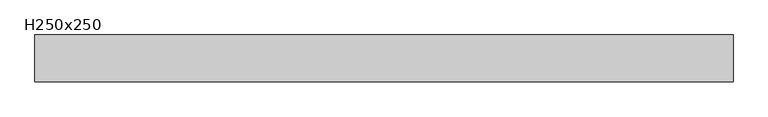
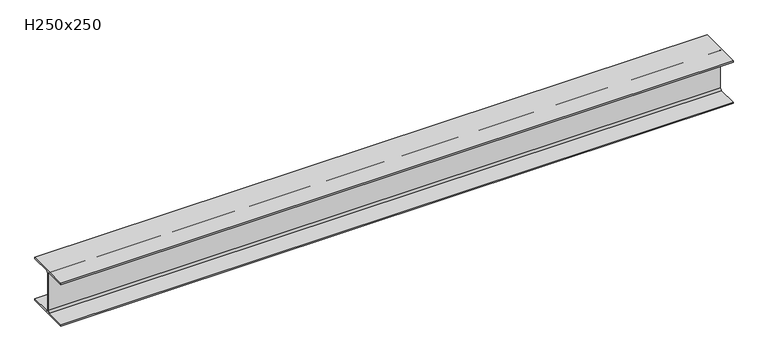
"""IFC4 building model written with IfcOpenShell, lengths in millimetres: beam geometry, H型鋼樑 : H250x250."""

import ifcopenshell
import ifcopenshell.guid

model = None  # the IFC model being written
_history = None  # IfcOwnerHistory: only IFC2X3 demands one
_inside = {}  # id of a spatial element -> (the spatial element, [elements in it])
_under = {}  # id of a project, library or spatial element -> (it, [spatial elements below it])
_declared = {}  # id of a project -> (the project, [libraries it declares])
_typed = {}  # id of a type object -> (the type object, [elements of that type])
_made_of = {}  # id of a material, layer set ... -> (it, [elements and type objects made of it])


def new_model(schema):
    """Start an empty IFC model of exactly this schema.

    Asked for "IFC4X3", IfcOpenShell would pick the latest addendum, in which some entities
    have other attributes; the version numbers below select the first issue.
    IFC2X3 requires an IfcOwnerHistory on every rooted entity: one is made here for all.
    """
    global model, _history
    if schema == "IFC4X3":
        model = ifcopenshell.file(schema_version=(4, 3, 0, 0))
    else:
        model = ifcopenshell.file(schema=schema)
    _inside.clear()
    _under.clear()
    _declared.clear()
    _typed.clear()
    _made_of.clear()
    _history = None
    if model.schema == "IFC2X3":
        org = make("IfcOrganization", Name="unknown")
        user = make(
            "IfcPersonAndOrganization",
            ThePerson=make("IfcPerson", FamilyName="unknown"),
            TheOrganization=org,
        )
        app = make(
            "IfcApplication",
            ApplicationDeveloper=org,
            Version="unknown",
            ApplicationFullName="unknown",
            ApplicationIdentifier="unknown",
        )
        _history = make(
            "IfcOwnerHistory",
            OwningUser=user,
            OwningApplication=app,
            ChangeAction="ADDED",
            CreationDate=0,
        )
    return model


def make(cls, **values):
    """One entity of the class cls with the attributes given. An attribute that is None is left unset."""
    return model.create_entity(
        cls, **{name: value for name, value in values.items() if value is not None}
    )


def rooted(cls, **values):
    """An entity with a GlobalId (a new one), such as an element, a storey or a relation."""
    return make(cls, GlobalId=ifcopenshell.guid.new(), OwnerHistory=_history, **values)


def si_unit(unit_type, name, prefix=None):
    """IfcSIUnit, for example si_unit("LENGTHUNIT", "METRE", prefix="MILLI")."""
    return make("IfcSIUnit", UnitType=unit_type, Prefix=prefix, Name=name)


def assignment(units):
    """IfcUnitAssignment: the units of a project."""
    return None if units is None else make("IfcUnitAssignment", Units=units)


def point(xyz):
    """IfcCartesianPoint."""
    return None if xyz is None else make("IfcCartesianPoint", Coordinates=xyz)


def direction(xyz):
    """IfcDirection."""
    return None if xyz is None else make("IfcDirection", DirectionRatios=xyz)


def frame(location, z_axis=None, x_axis=None):
    """IfcAxis2Placement3D, a coordinate frame: its origin and axes. An axis left out is left unset."""
    return make(
        "IfcAxis2Placement3D",
        Location=point(location),
        Axis=direction(z_axis),
        RefDirection=direction(x_axis),
    )


def frame_2d(location, x_axis=None):
    """IfcAxis2Placement2D, a coordinate frame in the plane: its origin and x axis."""
    return make(
        "IfcAxis2Placement2D", Location=point(location), RefDirection=direction(x_axis)
    )


def origin():
    """The frame at (0, 0, 0) with its axes left unset."""
    return frame((0.0, 0.0, 0.0))


def place(relative_to, where):
    """IfcLocalPlacement: puts the frame where relative to a parent placement (None: the world)."""
    return make(
        "IfcLocalPlacement", PlacementRelTo=relative_to, RelativePlacement=where
    )


def context(
    kind, dimensions, precision=None, world=None, true_north=None, identifier=None
):
    """IfcGeometricRepresentationContext, for example the 3D "Model" context."""
    return make(
        "IfcGeometricRepresentationContext",
        ContextIdentifier=identifier,
        ContextType=kind,
        CoordinateSpaceDimension=dimensions,
        Precision=precision,
        WorldCoordinateSystem=world,
        TrueNorth=true_north,
    )


def project(units=None, contexts=None):
    """IfcProject with its units and contexts."""
    return rooted(
        "IfcProject",
        Name="project",
        RepresentationContexts=contexts,
        UnitsInContext=assignment(units),
    )


def spatial(cls, under=None, at=None, **own):
    """A site, building, storey or space (cls), placed at a placement, below another one or the project."""
    s = rooted(cls, ObjectPlacement=at, **own)
    if under is not None:
        _under.setdefault(under.id(), (under, []))[1].append(s)
    return s


def polyline(points):
    """IfcPolyline through the points."""
    return make("IfcPolyline", Points=[point(p) for p in points])


def circle_curve(where, radius):
    """IfcCircle in the frame where."""
    return make("IfcCircle", Position=where, Radius=radius)


def trimmed(basis, trim1, trim2, sense, master):
    """IfcTrimmedCurve: the piece of a basis curve between two trims."""
    return make(
        "IfcTrimmedCurve",
        BasisCurve=basis,
        Trim1=trim1,
        Trim2=trim2,
        SenseAgreement=sense,
        MasterRepresentation=master,
    )


def segment(curve, same_sense, transition):
    """IfcCompositeCurveSegment."""
    return make(
        "IfcCompositeCurveSegment",
        Transition=transition,
        SameSense=same_sense,
        ParentCurve=curve,
    )


def composite_curve(segments, self_intersect=None):
    """IfcCompositeCurve: segments joined end to end."""
    return make("IfcCompositeCurve", Segments=segments, SelfIntersect=self_intersect)


def outline(outer, holes=None, kind="AREA"):
    """IfcArbitraryClosedProfileDef: a profile drawn as a closed curve; with holes, ...WithVoids."""
    if holes is None:
        return make("IfcArbitraryClosedProfileDef", ProfileType=kind, OuterCurve=outer)
    return make(
        "IfcArbitraryProfileDefWithVoids",
        ProfileType=kind,
        OuterCurve=outer,
        InnerCurves=holes,
    )


def extrude(swept, where, along, depth):
    """IfcExtrudedAreaSolid: the profile swept, set in the frame where, extruded along a direction by depth."""
    return make(
        "IfcExtrudedAreaSolid",
        SweptArea=swept,
        Position=where,
        ExtrudedDirection=direction(along),
        Depth=depth,
    )


def shape(context_of_items, identifier, shape_type, items):
    """IfcShapeRepresentation: the items that make up one representation, for example the "Body"."""
    return make(
        "IfcShapeRepresentation",
        ContextOfItems=context_of_items,
        RepresentationIdentifier=identifier,
        RepresentationType=shape_type,
        Items=items,
    )


def source(mapping_origin, context_of_items, identifier, shape_type, items):
    """IfcRepresentationMap: a shape defined once, which mapped items show again and again."""
    return make(
        "IfcRepresentationMap",
        MappingOrigin=mapping_origin,
        MappedRepresentation=shape(context_of_items, identifier, shape_type, items),
    )


def transform(
    local_origin,
    x_axis=None,
    y_axis=None,
    z_axis=None,
    scale=None,
    scale2=None,
    scale3=None,
    uniform=True,
):
    """IfcCartesianTransformationOperator3D, or its non-uniform kind. x_axis, y_axis, z_axis: its Axis1, 2, 3."""
    if uniform:
        return make(
            "IfcCartesianTransformationOperator3D",
            Axis1=direction(x_axis),
            Axis2=direction(y_axis),
            LocalOrigin=point(local_origin),
            Scale=scale,
            Axis3=direction(z_axis),
        )
    return make(
        "IfcCartesianTransformationOperator3DnonUniform",
        Axis1=direction(x_axis),
        Axis2=direction(y_axis),
        LocalOrigin=point(local_origin),
        Scale=scale,
        Axis3=direction(z_axis),
        Scale2=scale2,
        Scale3=scale3,
    )


def mapped(mapping_source, mapping_target):
    """IfcMappedItem: shows the shape of a source again, moved by a transform."""
    return make(
        "IfcMappedItem", MappingSource=mapping_source, MappingTarget=mapping_target
    )


def made_of(thing, what):
    """Note that an element or type object is made of a material, layer set ...; save() writes the relation."""
    if what is not None:
        _made_of.setdefault(what.id(), (what, []))[1].append(thing)
    return thing


def element(
    cls,
    number,
    at=None,
    inside=None,
    cuts=None,
    type_object=None,
    material=None,
    context=None,
    identifier="Body",
    shape_type=None,
    held_by="IfcProductDefinitionShape",
    body=None,
    shapes=None,
    **own,
):
    """One element of the class cls, such as IfcWall. Its Tag is "e" and its number.

    at: its placement. inside: the storey or other place that contains it. cuts: it is an
    opening in that element (IfcRelVoidsElement). A single representation is given by context,
    identifier, shape_type and body (its items); several are given by shapes. held_by: the class
    of the entity that holds the representations. save() writes the other relations.
    """
    e = rooted(cls, Tag="e%d" % number, ObjectPlacement=at, **own)
    if body is not None:
        shapes = [shape(context, identifier, shape_type, body)]
    if shapes is not None:
        e.Representation = make(held_by, Representations=shapes)
    if inside is not None:
        _inside.setdefault(inside.id(), (inside, []))[1].append(e)
    if cuts is not None:
        rooted(
            "IfcRelVoidsElement", RelatingBuildingElement=cuts, RelatedOpeningElement=e
        )
    if type_object is not None:
        _typed.setdefault(type_object.id(), (type_object, []))[1].append(e)
    return made_of(e, material)


def aggregate(whole, parts):
    """IfcRelAggregates: a whole, such as a stair, and the parts it consists of."""
    return rooted("IfcRelAggregates", RelatingObject=whole, RelatedObjects=parts)


def save(model, path):
    """Write the relations noted so far, then the file.

    IfcRelAggregates (storeys below a building ...), IfcRelContainedInSpatialStructure (elements
    in a storey), IfcRelDefinesByType, IfcRelAssociatesMaterial and IfcRelDeclares: one each for
    every whole, place, type object, material and project.
    """
    for whole, parts in _under.values():
        aggregate(whole, parts)
    for where, things in _inside.values():
        rooted(
            "IfcRelContainedInSpatialStructure",
            RelatedElements=things,
            RelatingStructure=where,
        )
    for kind, things in _typed.values():
        rooted("IfcRelDefinesByType", RelatedObjects=things, RelatingType=kind)
    for what, things in _made_of.values():
        rooted("IfcRelAssociatesMaterial", RelatedObjects=things, RelatingMaterial=what)
    for by, libraries in _declared.values():
        rooted("IfcRelDeclares", RelatingContext=by, RelatedDefinitions=libraries)
    model.write(path)


def h250x250_c2469310(model_context):
    return source(origin(), model_context, "Body", "SweptSolid", [
        extrude(outline(composite_curve([segment(polyline([(-125.0, 0.0), (125.0, 0.0), (125.0, -8.0), (13.0, -8.0)]), True, "CONTINUOUS"), segment(trimmed(circle_curve(frame_2d((13.0, -18.0)), 10.0), [point((13.0, -8.0))], [point((3.0, -18.0))], True, "CARTESIAN"), True, "CONTINUOUS"), segment(polyline([(3.0, -18.0), (3.0, -232.0)]), True, "CONTINUOUS"), segment(trimmed(circle_curve(frame_2d((13.0, -232.0)), 10.0), [point((3.0, -232.0))], [point((13.0, -242.0))], True, "CARTESIAN"), True, "CONTINUOUS"), segment(polyline([(13.0, -242.0), (125.0, -242.0), (125.0, -250.0), (-125.0, -250.0), (-125.0, -242.0), (-13.0, -242.0)]), True, "CONTINUOUS"), segment(trimmed(circle_curve(frame_2d((-13.0, -232.0)), 10.0), [point((-13.0, -242.0))], [point((-3.0, -232.0))], True, "CARTESIAN"), True, "CONTINUOUS"), segment(polyline([(-3.0, -232.0), (-3.0, -18.0)]), True, "CONTINUOUS"), segment(trimmed(circle_curve(frame_2d((-13.0, -18.0)), 10.0), [point((-3.0, -18.0))], [point((-13.0, -8.0))], True, "CARTESIAN"), True, "CONTINUOUS"), segment(polyline([(-13.0, -8.0), (-125.0, -8.0), (-125.0, 0.0)]), True, "CONTINUOUS")], self_intersect=False)), frame((-1862.3, 0.0, 0.0), z_axis=(1.0, 0.0, 0.0), x_axis=(0.0, 1.0, 0.0)), (0.0, 0.0, 1.0), 3724.6),
    ])


if __name__ == "__main__":
    model = new_model("IFC4")
    model_context = context("Model", 3, world=origin())
    ifc_project = project(units=[si_unit("LENGTHUNIT", "METRE", prefix="MILLI")], contexts=[model_context])
    site = spatial("IfcSite", under=ifc_project)
    building = spatial("IfcBuilding", under=site)
    placement = place(None, origin())
    h250x250_shape = h250x250_c2469310(model_context)
    element("IfcBeam", 1, ObjectType="H型鋼樑 : H250x250", at=placement, inside=building, context=model_context, shape_type="MappedRepresentation", body=[
        mapped(h250x250_shape, transform((0.0, 0.0, 0.0), x_axis=(1.0, 0.0, 0.0), y_axis=(0.0, 1.0, 0.0), z_axis=(0.0, 0.0, 1.0))),
    ])
    save(model, "model.ifc")
